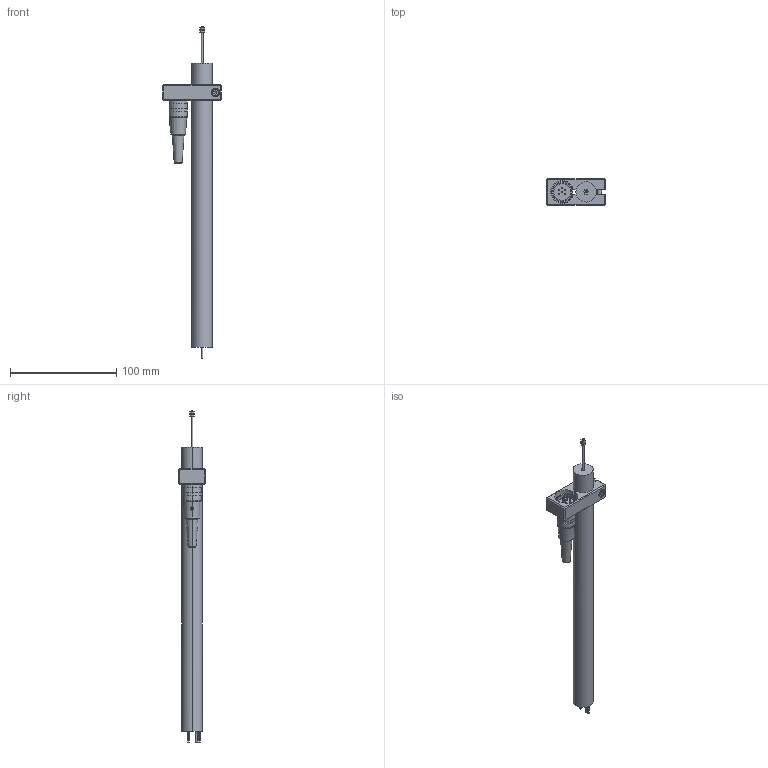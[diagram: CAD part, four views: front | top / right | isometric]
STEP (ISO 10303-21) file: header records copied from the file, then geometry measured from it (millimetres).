
FILE_DESCRIPTION(('STEP AP203'),'1');
FILE_NAME('C:/TPO v2/SharedFS/Outgoing/burster_87246-000-v001_487m39r8pi6oo3v6o90tmfqt9.stp','2013-08-26T20:10:56',('TraceParts'),('TraceParts S.A.'),'XStep 1.0',' ',' ');
FILE_SCHEMA(('CONFIG_CONTROL_DESIGN'));
Length unit declared in the file: millimetre
Products named in the file (3): 1; 2; 3
Bounding box: 55 x 25 x 312.3 mm (x, y, z)
Volume: 95195.1 mm3; surface area: 31837 mm2
Topology: 3 solids, 11 shells, 275 faces, 623 edges, 391 vertices
Faces by surface type: plane 106, cylinder 100, cone 65, torus 2, bspline 2
Entity records: 8139 total; most frequent: CARTESIAN_POINT 1636, DIRECTION 1432, ORIENTED_EDGE 1238, EDGE_CURVE 619, AXIS2_PLACEMENT_3D 562, VERTEX_POINT 391, EDGE_LOOP 320, LINE 308
